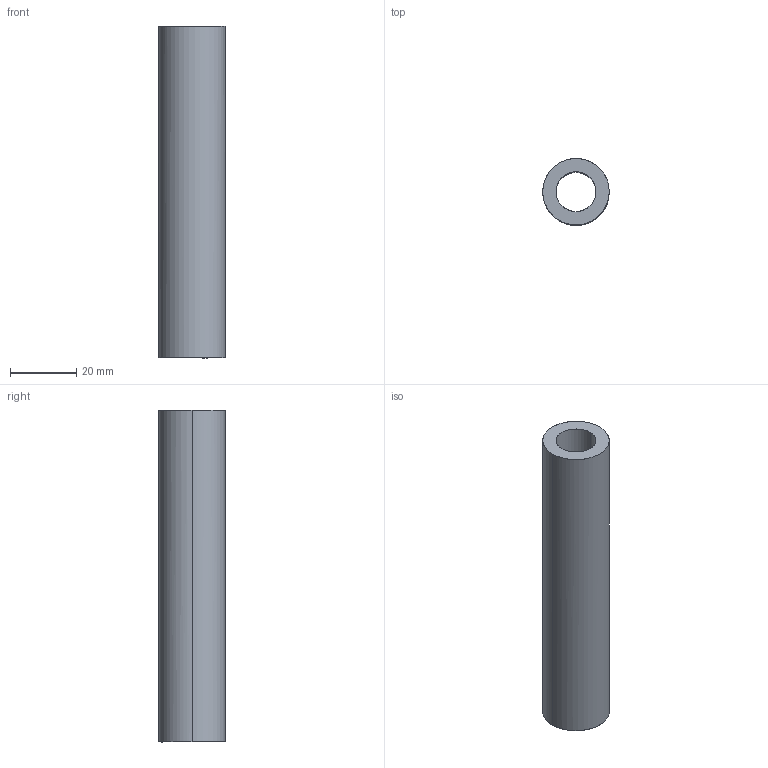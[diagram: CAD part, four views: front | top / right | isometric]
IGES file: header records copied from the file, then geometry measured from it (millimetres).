
Global section: file name: E:\UnigraphicsGraphicData\MISUMI_PRESS-PARTS\IGES\3d_sb20-100_00136_r00.igs; native system: NX V5.0; preprocessor: UGS NX IGES V5.0; author: MISUMI; date: 20110105.162424; units: millimetre
Bounding box: 20 x 20 x 100 mm (x, y, z)
Surface area: 10456.5 mm2 (no closed solid volume)
Topology: 0 solids, 0 shells, 6 faces, 48 edges, 48 vertices
Faces by surface type: bspline 6
